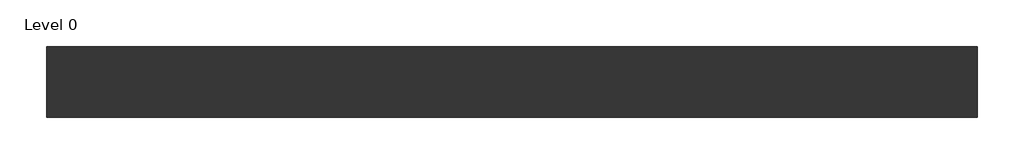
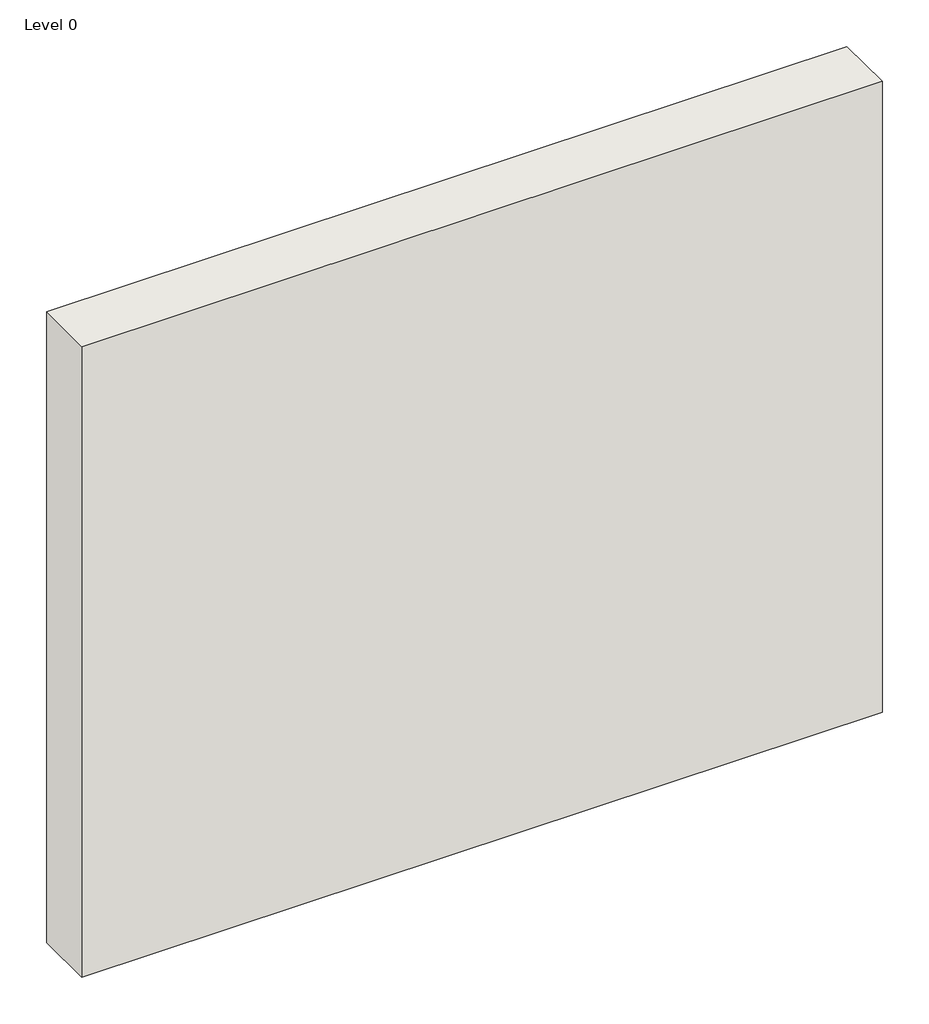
# One storey: 1 wall.
"""IFC4 building model written with IfcOpenShell, lengths in millimetres."""

from ifc_helpers import new_model, si_unit, origin, origin_with_axes, place, context, project, spatial, polyline, outline, extrude, element, save

model = new_model("IFC4")

# Units and contexts
model_context = context("Model", 3, world=origin())
ifc_project = project(units=[si_unit("LENGTHUNIT", "METRE", prefix="MILLI")], contexts=[model_context])

# Site, building, storey
site = spatial("IfcSite", under=ifc_project)
building = spatial("IfcBuilding", under=site)
storey = spatial("IfcBuildingStorey", under=building, Name="Level 0", Elevation=0.0)

# Wall
placement = place(None, origin())
element("IfcWall", 1, ObjectType="A316018 - GypWall QUIET SF", at=placement, inside=storey, context=model_context, shape_type="SweptSolid", body=[
    extrude(outline(polyline([(2116.0807354, 479.7205641), (-883.9192646, 479.7205641), (-883.9192646, 707.7205641), (2116.0807354, 707.7205641), (2116.0807354, 479.7205641)])), origin_with_axes(), (0.0, 0.0, 1.0), 2500.0),
])

save(model, "model.ifc")
